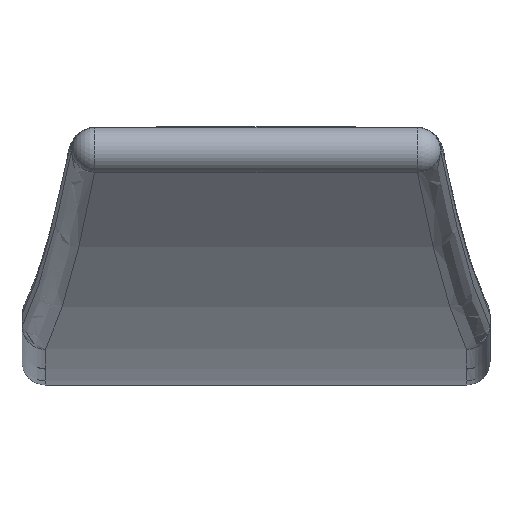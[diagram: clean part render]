
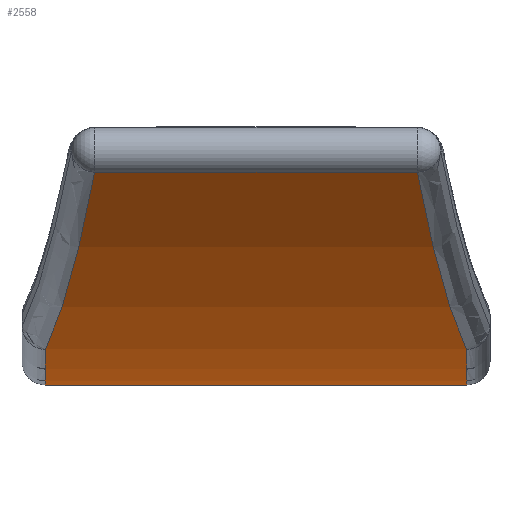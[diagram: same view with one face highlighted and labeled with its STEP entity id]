
A CAD part, left-side view. The second image highlights one B-rep face of the part: STEP entity #2558.
In plain terms, the highlighted cylindrical face has radius 200 mm (diameter 400 mm), a partial arc.
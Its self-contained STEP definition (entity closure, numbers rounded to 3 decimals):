
#16 = EDGE_CURVE ( 'NONE', #4849, #5128, #2491, .T. ) ;
#45 = AXIS2_PLACEMENT_3D ( 'NONE', #4524, #4525, #4561 ) ;
#60 = AXIS2_PLACEMENT_3D ( 'NONE', #4433, #4434, #4432 ) ;
#151 = EDGE_CURVE ( 'NONE', #5166, #4849, #3229, .T. ) ;
#212 = EDGE_CURVE ( 'NONE', #5160, #5014, #2957, .T. ) ;
#237 = EDGE_CURVE ( 'NONE', #5166, #5014, #2956, .T. ) ;
#255 = EDGE_CURVE ( 'NONE', #5128, #5050, #3084, .T. ) ;
#713 = CARTESIAN_POINT ( 'NONE',  ( -88.32, -20., 18.182 ) ) ;
#852 = DIRECTION ( 'NONE',  ( 0., 1., 0. ) ) ;
#1258 = CARTESIAN_POINT ( 'NONE',  ( -39.747, -18., 3.041 ) ) ;
#1297 = AXIS2_PLACEMENT_3D ( 'NONE', #3692, #3657, #3647 ) ;
#1823 = EDGE_LOOP ( 'NONE', ( #2043, #2045, #2049, #2053, #2055, #1997 ) ) ;
#1997 = ORIENTED_EDGE ( 'NONE', *, *, #212, .T. ) ;
#2043 = ORIENTED_EDGE ( 'NONE', *, *, #237, .F. ) ;
#2045 = ORIENTED_EDGE ( 'NONE', *, *, #151, .T. ) ;
#2049 = ORIENTED_EDGE ( 'NONE', *, *, #16, .T. ) ;
#2053 = ORIENTED_EDGE ( 'NONE', *, *, #255, .T. ) ;
#2055 = ORIENTED_EDGE ( 'NONE', *, *, #2435, .T. ) ;
#2435 = EDGE_CURVE ( 'NONE', #5050, #5160, #2472, .T. ) ;
#2472 =( BOUNDED_CURVE ( )  B_SPLINE_CURVE ( 3, ( #3634, #3534, #3597, #3570 ),
 .UNSPECIFIED., .F., .F. ) 
 B_SPLINE_CURVE_WITH_KNOTS ( ( 4, 4 ),
 ( 4.283, 4.538 ),
 .UNSPECIFIED. ) 
 CURVE ( )  GEOMETRIC_REPRESENTATION_ITEM ( )  RATIONAL_B_SPLINE_CURVE ( ( 1., 0.995, 0.995, 1. ) ) 
 REPRESENTATION_ITEM ( '' )  );
#2491 =( BOUNDED_CURVE ( )  B_SPLINE_CURVE ( 3, ( #4472, #4471, #4354, #4497 ),
 .UNSPECIFIED., .F., .F. ) 
 B_SPLINE_CURVE_WITH_KNOTS ( ( 4, 4 ),
 ( 4.887, 5.142 ),
 .UNSPECIFIED. ) 
 CURVE ( )  GEOMETRIC_REPRESENTATION_ITEM ( )  RATIONAL_B_SPLINE_CURVE ( ( 1., 0.995, 0.995, 1. ) ) 
 REPRESENTATION_ITEM ( '' )  );
#2509 = CARTESIAN_POINT ( 'NONE',  ( -5., 18., 0. ) ) ;
#2537 = CARTESIAN_POINT ( 'NONE',  ( -88.32, -13.793, 18.182 ) ) ;
#2543 = CARTESIAN_POINT ( 'NONE',  ( -88.32, 13.793, 18.182 ) ) ;
#2558 = ADVANCED_FACE ( 'NONE', ( #4109 ), #4134, .T. ) ;
#2948 = VECTOR ( 'NONE', #4499, 1000. ) ;
#2956 = LINE ( 'NONE', #4585, #2948 ) ;
#2957 = CIRCLE ( 'NONE', #45, 200. ) ;
#3050 = VECTOR ( 'NONE', #852, 1000. ) ;
#3084 = LINE ( 'NONE', #713, #3050 ) ;
#3229 = CIRCLE ( 'NONE', #60, 200. ) ;
#3534 = CARTESIAN_POINT ( 'NONE',  ( -72.818, 15.136, 11.078 ) ) ;
#3570 = CARTESIAN_POINT ( 'NONE',  ( -39.747, 18., 3.041 ) ) ;
#3597 = CARTESIAN_POINT ( 'NONE',  ( -56.539, 16.546, 6.004 ) ) ;
#3634 = CARTESIAN_POINT ( 'NONE',  ( -88.32, 13.793, 18.182 ) ) ;
#3647 = DIRECTION ( 'NONE',  ( 0., 0., 1. ) ) ;
#3657 = DIRECTION ( 'NONE',  ( 0., 1., 0. ) ) ;
#3692 = CARTESIAN_POINT ( 'NONE',  ( -5., -20., 200. ) ) ;
#3838 = CARTESIAN_POINT ( 'NONE',  ( -39.747, 18., 3.041 ) ) ;
#3844 = CARTESIAN_POINT ( 'NONE',  ( -5., -18., 0. ) ) ;
#4109 = FACE_OUTER_BOUND ( 'NONE', #1823, .T. ) ;
#4134 = CYLINDRICAL_SURFACE ( 'NONE', #1297, 200. ) ;
#4354 = CARTESIAN_POINT ( 'NONE',  ( -72.818, -15.136, 11.078 ) ) ;
#4432 = DIRECTION ( 'NONE',  ( 0., 0., -1. ) ) ;
#4433 = CARTESIAN_POINT ( 'NONE',  ( -5., -18., 200. ) ) ;
#4434 = DIRECTION ( 'NONE',  ( 0., 1., 0. ) ) ;
#4471 = CARTESIAN_POINT ( 'NONE',  ( -56.539, -16.546, 6.004 ) ) ;
#4472 = CARTESIAN_POINT ( 'NONE',  ( -39.747, -18., 3.041 ) ) ;
#4497 = CARTESIAN_POINT ( 'NONE',  ( -88.32, -13.793, 18.182 ) ) ;
#4499 = DIRECTION ( 'NONE',  ( 0., 1., 0. ) ) ;
#4524 = CARTESIAN_POINT ( 'NONE',  ( -5., 18., 200. ) ) ;
#4525 = DIRECTION ( 'NONE',  ( 0., -1., 0. ) ) ;
#4561 = DIRECTION ( 'NONE',  ( 0., 0., -1. ) ) ;
#4585 = CARTESIAN_POINT ( 'NONE',  ( -5., -20., 0. ) ) ;
#4849 = VERTEX_POINT ( 'NONE', #1258 ) ;
#5014 = VERTEX_POINT ( 'NONE', #2509 ) ;
#5050 = VERTEX_POINT ( 'NONE', #2543 ) ;
#5128 = VERTEX_POINT ( 'NONE', #2537 ) ;
#5160 = VERTEX_POINT ( 'NONE', #3838 ) ;
#5166 = VERTEX_POINT ( 'NONE', #3844 ) ;
